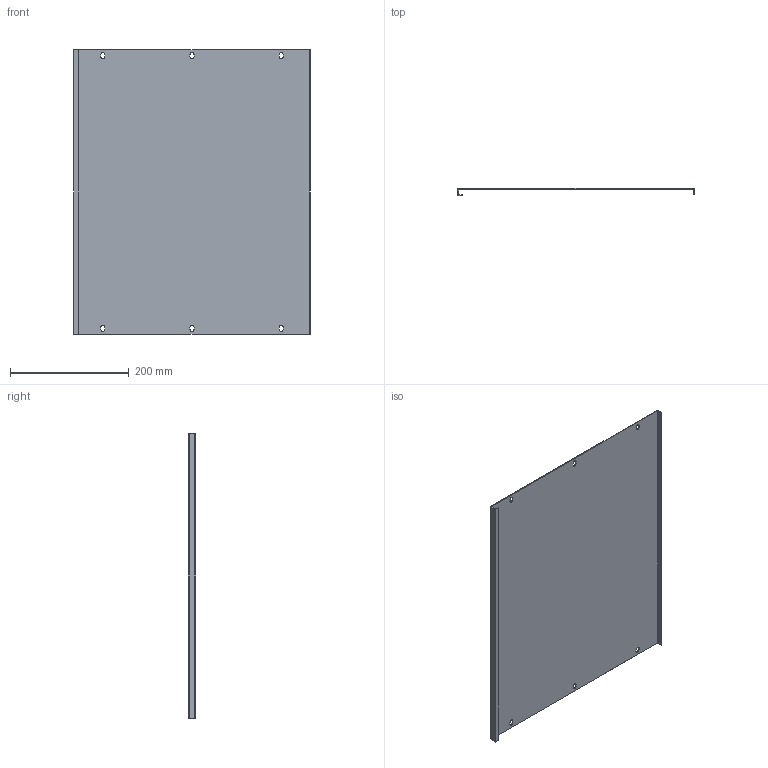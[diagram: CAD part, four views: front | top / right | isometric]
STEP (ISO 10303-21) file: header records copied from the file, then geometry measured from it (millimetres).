
FILE_DESCRIPTION (( 'STEP AP214' ), '1' );
FILE_NAME ('FO-00-PVS-040-060 Ïëàñòðîí ãëóõîé âíóòðåííèé 400õ600.STEP', '2025-09-04T08:20:16', ( '' ), ( '' ), 'SwSTEP 2.0', 'SolidWorks 2023', '' );
FILE_SCHEMA (( 'AUTOMOTIVE_DESIGN' ));
Length unit declared in the file: millimetre
Products named in the file (1): FO-00-PVS-040-060 Пластрон глухой внутренний 400х600
Bounding box: 398 x 12.5 x 479 mm (x, y, z)
Volume: 304108.6 mm3; surface area: 408439.1 mm2
Topology: 1 solids, 1 shells, 52 faces, 150 edges, 100 vertices
Faces by surface type: plane 34, cylinder 18
Entity records: 1757 total; most frequent: CARTESIAN_POINT 303, ORIENTED_EDGE 300, DIRECTION 292, EDGE_CURVE 150, LINE 114, VECTOR 114, VERTEX_POINT 100, AXIS2_PLACEMENT_3D 89
